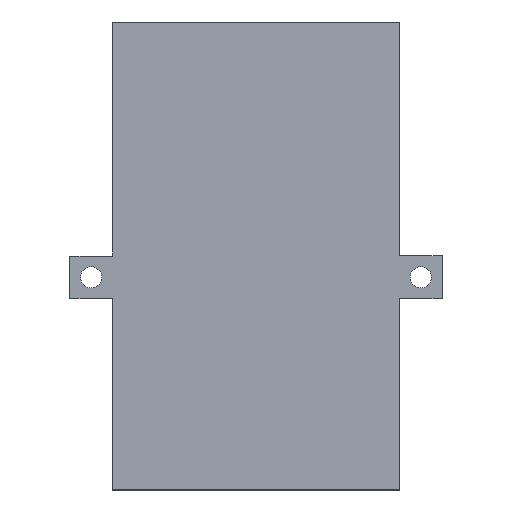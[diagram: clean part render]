
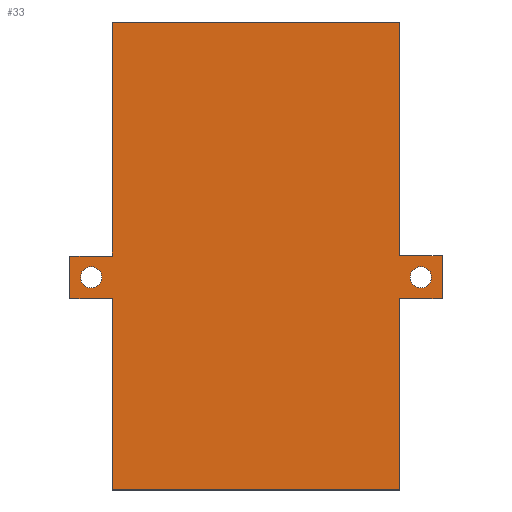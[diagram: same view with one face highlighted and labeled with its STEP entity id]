
A CAD part, top view. The second image highlights one B-rep face of the part: STEP entity #33.
In plain terms, the highlighted planar face has unit normal (0, 0, 1).
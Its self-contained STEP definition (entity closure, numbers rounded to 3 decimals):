
#16=FACE_BOUND('',#72,.T.);
#17=FACE_BOUND('',#73,.T.);
#33=ADVANCED_FACE('',(#51,#16,#17),#325,.T.);
#51=FACE_OUTER_BOUND('',#71,.T.);
#71=EDGE_LOOP('',(#148,#149,#150,#151,#152,#153,#154,#155,#156,#157,#158,
#159));
#72=EDGE_LOOP('',(#160,#161));
#73=EDGE_LOOP('',(#162,#163));
#148=ORIENTED_EDGE('',*,*,#174,.T.);
#149=ORIENTED_EDGE('',*,*,#178,.T.);
#150=ORIENTED_EDGE('',*,*,#181,.T.);
#151=ORIENTED_EDGE('',*,*,#184,.T.);
#152=ORIENTED_EDGE('',*,*,#187,.T.);
#153=ORIENTED_EDGE('',*,*,#190,.T.);
#154=ORIENTED_EDGE('',*,*,#193,.T.);
#155=ORIENTED_EDGE('',*,*,#196,.T.);
#156=ORIENTED_EDGE('',*,*,#199,.T.);
#157=ORIENTED_EDGE('',*,*,#202,.T.);
#158=ORIENTED_EDGE('',*,*,#205,.T.);
#159=ORIENTED_EDGE('',*,*,#207,.T.);
#160=ORIENTED_EDGE('',*,*,#210,.T.);
#161=ORIENTED_EDGE('',*,*,#216,.T.);
#162=ORIENTED_EDGE('',*,*,#213,.T.);
#163=ORIENTED_EDGE('',*,*,#219,.T.);
#174=EDGE_CURVE('',#279,#278,#242,.T.);
#178=EDGE_CURVE('',#278,#281,#246,.T.);
#181=EDGE_CURVE('',#281,#283,#249,.T.);
#184=EDGE_CURVE('',#283,#285,#252,.T.);
#187=EDGE_CURVE('',#285,#287,#255,.T.);
#190=EDGE_CURVE('',#287,#289,#258,.T.);
#193=EDGE_CURVE('',#289,#291,#261,.T.);
#196=EDGE_CURVE('',#291,#293,#264,.T.);
#199=EDGE_CURVE('',#293,#295,#267,.T.);
#202=EDGE_CURVE('',#295,#297,#270,.T.);
#205=EDGE_CURVE('',#297,#299,#273,.T.);
#207=EDGE_CURVE('',#299,#279,#275,.T.);
#210=EDGE_CURVE('',#301,#305,#225,.T.);
#213=EDGE_CURVE('',#303,#307,#227,.T.);
#216=EDGE_CURVE('',#305,#301,#229,.T.);
#219=EDGE_CURVE('',#307,#303,#231,.T.);
#225=TRIMMED_CURVE($,#233,(#608),(#609),.T.,.CARTESIAN.);
#227=TRIMMED_CURVE($,#235,(#616),(#617),.T.,.CARTESIAN.);
#229=TRIMMED_CURVE($,#237,(#624),(#625),.T.,.CARTESIAN.);
#231=TRIMMED_CURVE($,#239,(#632),(#633),.T.,.CARTESIAN.);
#233=CIRCLE('',#433,1.5);
#235=CIRCLE('',#435,1.5);
#237=CIRCLE('',#437,1.5);
#239=CIRCLE('',#439,1.5);
#242=B_SPLINE_CURVE_WITH_KNOTS('',1,(#534,#535),.UNSPECIFIED.,.F.,.F.,(2,
2),(-237.006,-204.006),.UNSPECIFIED.);
#246=B_SPLINE_CURVE_WITH_KNOTS('',1,(#542,#543),.UNSPECIFIED.,.F.,.F.,(2,
2),(-204.006,-198.006),.UNSPECIFIED.);
#249=B_SPLINE_CURVE_WITH_KNOTS('',1,(#548,#549),.UNSPECIFIED.,.F.,.F.,(2,
2),(-198.006,-192.006),.UNSPECIFIED.);
#252=B_SPLINE_CURVE_WITH_KNOTS('',1,(#554,#555),.UNSPECIFIED.,.F.,.F.,(2,
2),(-192.006,-186.006),.UNSPECIFIED.);
#255=B_SPLINE_CURVE_WITH_KNOTS('',1,(#560,#561),.UNSPECIFIED.,.F.,.F.,(2,
2),(-186.006,-159.006),.UNSPECIFIED.);
#258=B_SPLINE_CURVE_WITH_KNOTS('',1,(#566,#567),.UNSPECIFIED.,.F.,.F.,(2,
2),(-159.006,-118.506),.UNSPECIFIED.);
#261=B_SPLINE_CURVE_WITH_KNOTS('',1,(#572,#573),.UNSPECIFIED.,.F.,.F.,(2,
2),(-118.506,-91.503),.UNSPECIFIED.);
#264=B_SPLINE_CURVE_WITH_KNOTS('',1,(#578,#579),.UNSPECIFIED.,.F.,.F.,(2,
2),(-91.503,-85.503),.UNSPECIFIED.);
#267=B_SPLINE_CURVE_WITH_KNOTS('',1,(#584,#585),.UNSPECIFIED.,.F.,.F.,(2,
2),(-85.503,-79.503),.UNSPECIFIED.);
#270=B_SPLINE_CURVE_WITH_KNOTS('',1,(#590,#591),.UNSPECIFIED.,.F.,.F.,(2,
2),(-79.503,-73.503),.UNSPECIFIED.);
#273=B_SPLINE_CURVE_WITH_KNOTS('',1,(#596,#597),.UNSPECIFIED.,.F.,.F.,(2,
2),(-73.503,-40.5),.UNSPECIFIED.);
#275=B_SPLINE_CURVE_WITH_KNOTS('',1,(#600,#601),.UNSPECIFIED.,.F.,.F.,(2,
2),(-40.5,0.),.UNSPECIFIED.);
#278=VERTEX_POINT('',#500);
#279=VERTEX_POINT('',#501);
#281=VERTEX_POINT('',#503);
#283=VERTEX_POINT('',#505);
#285=VERTEX_POINT('',#507);
#287=VERTEX_POINT('',#509);
#289=VERTEX_POINT('',#511);
#291=VERTEX_POINT('',#513);
#293=VERTEX_POINT('',#515);
#295=VERTEX_POINT('',#517);
#297=VERTEX_POINT('',#519);
#299=VERTEX_POINT('',#521);
#301=VERTEX_POINT('',#523);
#303=VERTEX_POINT('',#525);
#305=VERTEX_POINT('',#527);
#307=VERTEX_POINT('',#529);
#325=PLANE('',#429);
#429=AXIS2_PLACEMENT_3D('',#495,#458,$);
#433=AXIS2_PLACEMENT_3D($,#607,#463,#464);
#435=AXIS2_PLACEMENT_3D($,#615,#467,#468);
#437=AXIS2_PLACEMENT_3D($,#623,#471,#472);
#439=AXIS2_PLACEMENT_3D($,#631,#475,#476);
#458=DIRECTION('',(0.,0.,1.));
#463=DIRECTION('',(0.,0.,-1.));
#464=DIRECTION('',(1.,0.,0.));
#467=DIRECTION('',(0.,0.,-1.));
#468=DIRECTION('',(1.,0.,0.));
#471=DIRECTION('',(0.,0.,-1.));
#472=DIRECTION('',(-1.,0.,0.));
#475=DIRECTION('',(0.,0.,-1.));
#476=DIRECTION('',(-1.,0.,0.));
#495=CARTESIAN_POINT('',(-1715.75,1565.447,0.03));
#500=CARTESIAN_POINT('',(-1768.812,1524.19,0.03));
#501=CARTESIAN_POINT('',(-1768.812,1557.19,0.03));
#503=CARTESIAN_POINT('',(-1774.812,1524.19,0.03));
#505=CARTESIAN_POINT('',(-1774.812,1518.19,0.03));
#507=CARTESIAN_POINT('',(-1768.812,1518.19,0.03));
#509=CARTESIAN_POINT('',(-1768.812,1491.19,0.03));
#511=CARTESIAN_POINT('',(-1728.312,1491.19,0.03));
#513=CARTESIAN_POINT('',(-1728.312,1518.193,0.03));
#515=CARTESIAN_POINT('',(-1722.312,1518.193,0.03));
#517=CARTESIAN_POINT('',(-1722.312,1524.193,0.03));
#519=CARTESIAN_POINT('',(-1728.312,1524.193,0.03));
#521=CARTESIAN_POINT('',(-1728.312,1557.196,0.03));
#523=CARTESIAN_POINT('',(-1770.312,1521.19,0.03));
#525=CARTESIAN_POINT('',(-1723.812,1521.193,0.03));
#527=CARTESIAN_POINT('',(-1773.312,1521.19,0.03));
#529=CARTESIAN_POINT('',(-1726.812,1521.193,0.03));
#534=CARTESIAN_POINT('',(-1768.812,1557.19,0.03));
#535=CARTESIAN_POINT('',(-1768.812,1524.19,0.03));
#542=CARTESIAN_POINT('',(-1768.812,1524.19,0.03));
#543=CARTESIAN_POINT('',(-1774.812,1524.19,0.03));
#548=CARTESIAN_POINT('',(-1774.812,1524.19,0.03));
#549=CARTESIAN_POINT('',(-1774.812,1518.19,0.03));
#554=CARTESIAN_POINT('',(-1774.812,1518.19,0.03));
#555=CARTESIAN_POINT('',(-1768.812,1518.19,0.03));
#560=CARTESIAN_POINT('',(-1768.812,1518.19,0.03));
#561=CARTESIAN_POINT('',(-1768.812,1491.19,0.03));
#566=CARTESIAN_POINT('',(-1768.812,1491.19,0.03));
#567=CARTESIAN_POINT('',(-1728.312,1491.19,0.03));
#572=CARTESIAN_POINT('',(-1728.312,1491.19,0.03));
#573=CARTESIAN_POINT('',(-1728.312,1518.193,0.03));
#578=CARTESIAN_POINT('',(-1728.312,1518.193,0.03));
#579=CARTESIAN_POINT('',(-1722.312,1518.193,0.03));
#584=CARTESIAN_POINT('',(-1722.312,1518.193,0.03));
#585=CARTESIAN_POINT('',(-1722.312,1524.193,0.03));
#590=CARTESIAN_POINT('',(-1722.312,1524.193,0.03));
#591=CARTESIAN_POINT('',(-1728.312,1524.193,0.03));
#596=CARTESIAN_POINT('',(-1728.312,1524.193,0.03));
#597=CARTESIAN_POINT('',(-1728.312,1557.196,0.03));
#600=CARTESIAN_POINT('',(-1728.312,1557.196,0.03));
#601=CARTESIAN_POINT('',(-1768.812,1557.19,0.03));
#607=CARTESIAN_POINT('',(-1771.812,1521.19,0.03));
#608=CARTESIAN_POINT('',(-1770.312,1521.19,0.03));
#609=CARTESIAN_POINT('',(-1773.312,1521.19,0.03));
#615=CARTESIAN_POINT('',(-1725.312,1521.193,0.03));
#616=CARTESIAN_POINT('',(-1723.812,1521.193,0.03));
#617=CARTESIAN_POINT('',(-1726.812,1521.193,0.03));
#623=CARTESIAN_POINT('',(-1771.812,1521.19,0.03));
#624=CARTESIAN_POINT('',(-1773.312,1521.19,0.03));
#625=CARTESIAN_POINT('',(-1770.312,1521.19,0.03));
#631=CARTESIAN_POINT('',(-1725.312,1521.193,0.03));
#632=CARTESIAN_POINT('',(-1726.812,1521.193,0.03));
#633=CARTESIAN_POINT('',(-1723.812,1521.193,0.03));
